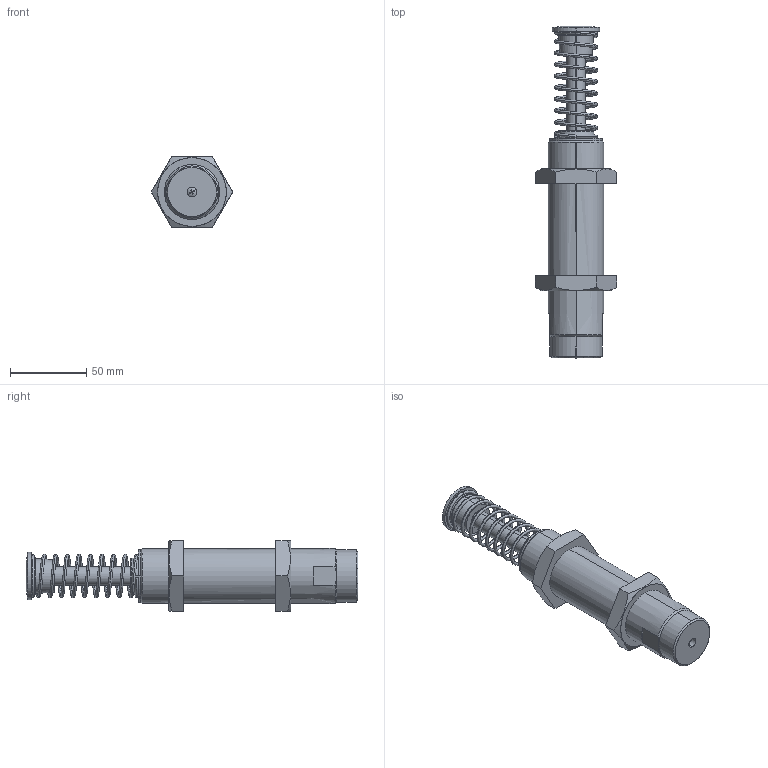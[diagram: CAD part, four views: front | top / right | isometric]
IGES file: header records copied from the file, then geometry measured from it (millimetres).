
Start section: SolidWorks IGES file using analytic representation for surfaces
Bounding box: 53.12 x 217 x 46 mm (x, y, z)
Surface area: 37596 mm2 (no closed solid volume)
Topology: 0 solids, 0 shells, 93 faces, 1734 edges, 1734 vertices
Faces by surface type: revolution 47, bspline 46
